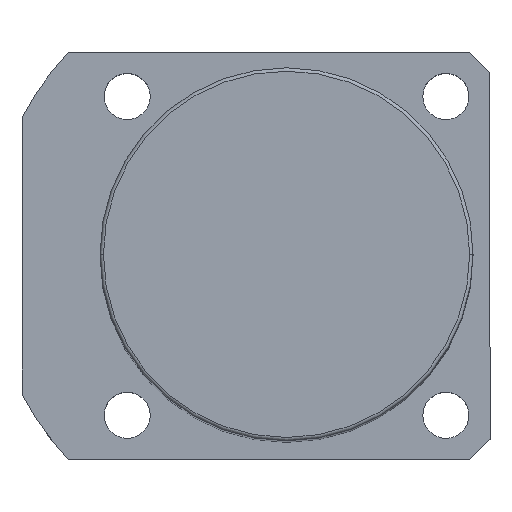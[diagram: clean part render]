
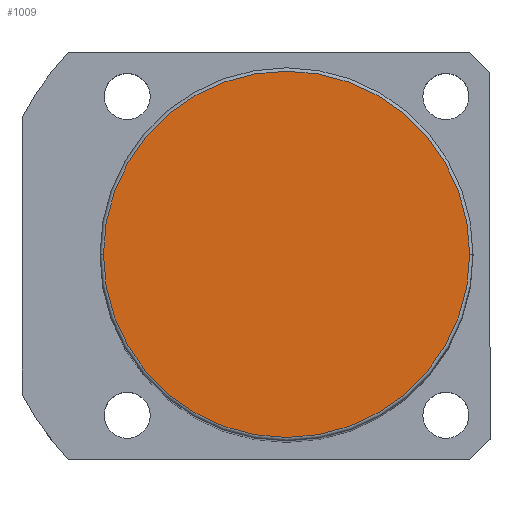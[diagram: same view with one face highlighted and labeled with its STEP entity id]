
A CAD part, top view. The second image highlights one B-rep face of the part: STEP entity #1009.
In plain terms, the highlighted planar face has unit normal (0, 0, 1).
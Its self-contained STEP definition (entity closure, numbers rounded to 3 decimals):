
#72 = CIRCLE ( 'NONE', #1172, 27. ) ;
#157 = ORIENTED_EDGE ( 'NONE', *, *, #608, .T. ) ;
#173 = AXIS2_PLACEMENT_3D ( 'NONE', #1121, #1456, #1750 ) ;
#256 = CARTESIAN_POINT ( 'NONE',  ( 27., 0., 141. ) ) ;
#391 = VERTEX_POINT ( 'NONE', #256 ) ;
#450 = CIRCLE ( 'NONE', #173, 27. ) ;
#462 = DIRECTION ( 'NONE',  ( 1., 0., 0. ) ) ;
#574 = DIRECTION ( 'NONE',  ( 0., 0., 1. ) ) ;
#587 = DIRECTION ( 'NONE',  ( 0., 0., 1. ) ) ;
#608 = EDGE_CURVE ( 'NONE', #785, #391, #450, .T. ) ;
#705 = AXIS2_PLACEMENT_3D ( 'NONE', #875, #574, #866 ) ;
#785 = VERTEX_POINT ( 'NONE', #1814 ) ;
#866 = DIRECTION ( 'NONE',  ( 1., 0., 0. ) ) ;
#875 = CARTESIAN_POINT ( 'NONE',  ( 0., 0., 141. ) ) ;
#964 = EDGE_LOOP ( 'NONE', ( #1602, #157 ) ) ;
#1009 = ADVANCED_FACE ( 'NONE', ( #1863 ), #1929, .T. ) ;
#1121 = CARTESIAN_POINT ( 'NONE',  ( 0., 0., 141. ) ) ;
#1172 = AXIS2_PLACEMENT_3D ( 'NONE', #1535, #587, #462 ) ;
#1324 = EDGE_CURVE ( 'NONE', #391, #785, #72, .T. ) ;
#1456 = DIRECTION ( 'NONE',  ( 0., 0., 1. ) ) ;
#1535 = CARTESIAN_POINT ( 'NONE',  ( 0., 0., 141. ) ) ;
#1602 = ORIENTED_EDGE ( 'NONE', *, *, #1324, .T. ) ;
#1750 = DIRECTION ( 'NONE',  ( 1., 0., 0. ) ) ;
#1814 = CARTESIAN_POINT ( 'NONE',  ( -27., 0., 141. ) ) ;
#1863 = FACE_OUTER_BOUND ( 'NONE', #964, .T. ) ;
#1929 = PLANE ( 'NONE',  #705 ) ;
